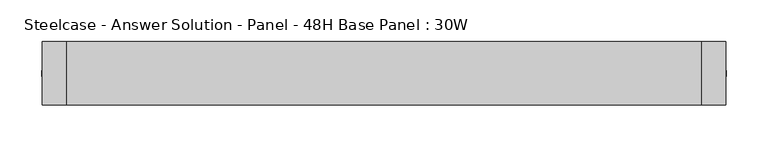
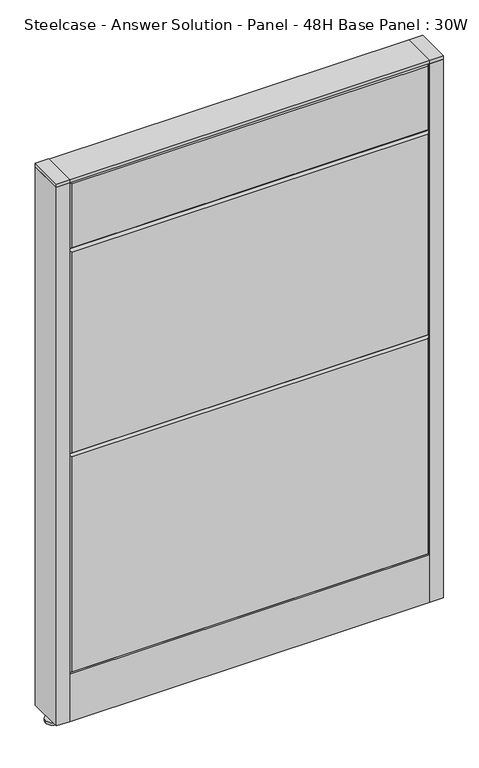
"""IFC4 building model written with IfcOpenShell, lengths in millimetres: furniture geometry, Steelcase - Answer Solution - Panel - 48H Base Panel : 30W."""

from ifc_helpers import new_model, si_unit, point, frame, frame_2d, origin, place, context, project, spatial, polyline, circle_curve, trimmed, segment, composite_curve, outline, extrude, faceted_brep, source, transform, mapped, element, save


def steelcase_answer_solution_panel_48h_base_panel_30w_9dcc85d9(model_context):
    return source(origin(), model_context, "Body", "SolidModel", [
        extrude(outline(composite_curve([segment(trimmed(circle_curve(frame_2d((395.224, 0.0320214)), 5.08), [point((400.304, 0.0320214))], [point((390.144, 0.0320214))], False, "CARTESIAN"), True, "CONTINUOUS"), segment(trimmed(circle_curve(frame_2d((395.224, 0.0320214)), 5.08), [point((390.144, 0.0320214))], [point((400.304, 0.0320214))], False, "CARTESIAN"), True, "CONTINUOUS")], self_intersect=False)), frame((0.0, 0.0, 5.0799671), z_axis=(0.0, 0.0, 1.0), x_axis=(1.0, 0.0, 0.0)), (0.0, 0.0, 1.0), 10.414),
        extrude(outline(composite_curve([segment(trimmed(circle_curve(frame_2d((395.224, 0.0320214)), 15.24), [point((410.464, 0.0320214))], [point((379.984, 0.0320214))], False, "CARTESIAN"), True, "CONTINUOUS"), segment(trimmed(circle_curve(frame_2d((395.224, 0.0320214)), 15.24), [point((379.984, 0.0320214))], [point((410.464, 0.0320214))], False, "CARTESIAN"), True, "CONTINUOUS")], self_intersect=False)), frame((0.0, 0.0, -3.29e-05), z_axis=(0.0, 0.0, 1.0), x_axis=(1.0, 0.0, 0.0)), (0.0, 0.0, 1.0), 5.08),
        extrude(outline(polyline([(409.575, 38.1320408), (409.575, -38.0679592), (381.0, -38.0679592), (381.0, 38.1320408), (409.575, 38.1320408)])), frame((0.0, 0.0, 1218.2348), z_axis=(0.0, 0.0, 1.0), x_axis=(1.0, 0.0, 0.0)), (0.0, 0.0, 1.0), 7.3151671),
        extrude(outline(polyline([(409.575, 38.1320408), (409.575, -38.0679592), (381.0, -38.0679592), (381.0, 38.1320408), (409.575, 38.1320408)])), frame((0.0, 0.0, 15.4939671), z_axis=(0.0, 0.0, 1.0), x_axis=(1.0, 0.0, 0.0)), (0.0, 0.0, 1.0), 1202.7408329),
        extrude(outline(composite_curve([segment(trimmed(circle_curve(frame_2d((-395.224, 0.0320214)), 5.08), [point((-400.304, 0.0320214))], [point((-390.144, 0.0320214))], False, "CARTESIAN"), True, "CONTINUOUS"), segment(trimmed(circle_curve(frame_2d((-395.224, 0.0320214)), 5.08), [point((-390.144, 0.0320214))], [point((-400.304, 0.0320214))], False, "CARTESIAN"), True, "CONTINUOUS")], self_intersect=False)), frame((0.0, 0.0, 5.0799671), z_axis=(0.0, 0.0, 1.0), x_axis=(1.0, 0.0, 0.0)), (0.0, 0.0, 1.0), 10.414),
        extrude(outline(composite_curve([segment(trimmed(circle_curve(frame_2d((-395.224, 0.0320214)), 15.24), [point((-410.464, 0.0320214))], [point((-379.984, 0.0320214))], False, "CARTESIAN"), True, "CONTINUOUS"), segment(trimmed(circle_curve(frame_2d((-395.224, 0.0320214)), 15.24), [point((-379.984, 0.0320214))], [point((-410.464, 0.0320214))], False, "CARTESIAN"), True, "CONTINUOUS")], self_intersect=False)), frame((0.0, 0.0, -3.29e-05), z_axis=(0.0, 0.0, 1.0), x_axis=(1.0, 0.0, 0.0)), (0.0, 0.0, 1.0), 5.08),
        extrude(outline(polyline([(-409.575, 38.1320408), (-381.0, 38.1320408), (-381.0, -38.0679592), (-409.575, -38.0679592), (-409.575, 38.1320408)])), frame((0.0, 0.0, 1218.2348), z_axis=(0.0, 0.0, 1.0), x_axis=(1.0, 0.0, 0.0)), (0.0, 0.0, 1.0), 7.3151671),
        extrude(outline(polyline([(-409.575, 38.1320408), (-381.0, 38.1320408), (-381.0, -38.0679592), (-409.575, -38.0679592), (-409.575, 38.1320408)])), frame((0.0, 0.0, 15.4939671), z_axis=(0.0, 0.0, 1.0), x_axis=(1.0, 0.0, 0.0)), (0.0, 0.0, 1.0), 1202.7408329),
        faceted_brep([(-376.174, 38.1635011, 1214.374), (376.174, 38.1635011, 1214.374), (376.174, 38.1635011, 1071.626), (-376.174, 38.1635011, 1071.626), (-381.0, 33.3375011, 1219.2), (-381.0, 33.3375011, 1066.8), (381.0, 33.3375011, 1066.8), (381.0, 33.3375011, 1219.2)], [[[0, 1, 2, 3]], [[4, 5, 6, 7]], [[4, 7, 1, 0]], [[7, 6, 2, 1]], [[6, 5, 3, 2]], [[5, 4, 0, 3]]]),
        faceted_brep([(-376.174, 38.1635011, 1061.974), (376.174, 38.1635011, 1061.974), (376.174, 38.1635011, 614.426), (-376.174, 38.1635011, 614.426), (-381.0, 33.3375011, 1066.8), (-381.0, 33.3375011, 609.6), (381.0, 33.3375011, 609.6), (381.0, 33.3375011, 1066.8)], [[[0, 1, 2, 3]], [[4, 5, 6, 7]], [[4, 7, 1, 0]], [[7, 6, 2, 1]], [[6, 5, 3, 2]], [[5, 4, 0, 3]]]),
        faceted_brep([(-376.174, 38.1635011, 604.774), (376.174, 38.1635011, 604.774), (376.174, 38.1635011, 125.476), (-376.174, 38.1635011, 125.476), (-381.0, 33.3375011, 609.6), (-381.0, 33.3375011, 120.65), (381.0, 33.3375011, 120.65), (381.0, 33.3375011, 609.6)], [[[0, 1, 2, 3]], [[4, 5, 6, 7]], [[4, 7, 1, 0]], [[7, 6, 2, 1]], [[6, 5, 3, 2]], [[5, 4, 0, 3]]]),
        faceted_brep([(376.174, -38.1635011, 1214.374), (-376.174, -38.1635011, 1214.374), (-376.174, -38.1635011, 1071.626), (376.174, -38.1635011, 1071.626), (381.0, -33.3375011, 1219.2), (381.0, -33.3375011, 1066.8), (-381.0, -33.3375011, 1066.8), (-381.0, -33.3375011, 1219.2)], [[[0, 1, 2, 3]], [[4, 5, 6, 7]], [[4, 7, 1, 0]], [[7, 6, 2, 1]], [[6, 5, 3, 2]], [[5, 4, 0, 3]]]),
        faceted_brep([(376.174, -38.1635011, 1061.974), (-376.174, -38.1635011, 1061.974), (-376.174, -38.1635011, 614.426), (376.174, -38.1635011, 614.426), (381.0, -33.3375011, 1066.8), (381.0, -33.3375011, 609.6), (-381.0, -33.3375011, 609.6), (-381.0, -33.3375011, 1066.8)], [[[0, 1, 2, 3]], [[4, 5, 6, 7]], [[4, 7, 1, 0]], [[7, 6, 2, 1]], [[6, 5, 3, 2]], [[5, 4, 0, 3]]]),
        faceted_brep([(376.174, -38.1635011, 604.774), (-376.174, -38.1635011, 604.774), (-376.174, -38.1635011, 125.476), (376.174, -38.1635011, 125.476), (381.0, -33.3375011, 609.6), (381.0, -33.3375011, 120.65), (-381.0, -33.3375011, 120.65), (-381.0, -33.3375011, 609.6)], [[[0, 1, 2, 3]], [[4, 5, 6, 7]], [[4, 7, 1, 0]], [[7, 6, 2, 1]], [[6, 5, 3, 2]], [[5, 4, 0, 3]]]),
        extrude(outline(polyline([(381.0, 38.1000194), (381.0, -38.1000194), (-381.0, -38.1000194), (-381.0, 38.1000194), (381.0, 38.1000194)])), frame((0.0, 0.0, 1219.2), z_axis=(0.0, 0.0, 1.0), x_axis=(1.0, 0.0, 0.0)), (0.0, 0.0, 1.0), 6.35),
        extrude(outline(polyline([(25.4000011, 119.8575157), (25.4000011, 120.65), (38.1000194, 120.65), (38.1000194, 15.494), (37.3075215, 15.494), (37.3075215, 119.8575157), (25.4000011, 119.8575157)])), frame((-381.0, 0.0, 0.0), z_axis=(1.0, 0.0, 0.0), x_axis=(0.0, 1.0, 0.0)), (0.0, 0.0, 1.0), 762.0),
        extrude(outline(polyline([(-25.4000011, 119.8575157), (-37.3075215, 119.8575157), (-37.3075215, 15.494), (-38.1000194, 15.494), (-38.1000194, 120.65), (-25.4000011, 120.65), (-25.4000011, 119.8575157)])), frame((-381.0, 0.0, 0.0), z_axis=(1.0, 0.0, 0.0), x_axis=(0.0, 1.0, 0.0)), (0.0, 0.0, 1.0), 762.0),
    ])


if __name__ == "__main__":
    model = new_model("IFC4")
    model_context = context("Model", 3, world=origin())
    ifc_project = project(units=[si_unit("LENGTHUNIT", "METRE", prefix="MILLI")], contexts=[model_context])
    site = spatial("IfcSite", under=ifc_project)
    building = spatial("IfcBuilding", under=site)
    placement = place(None, origin())
    steelcase_answer_solution_panel_48h_base_panel_30w_shape = steelcase_answer_solution_panel_48h_base_panel_30w_9dcc85d9(model_context)
    element("IfcFurniture", 1, ObjectType="Steelcase - Answer Solution - Panel - 48H Base Panel : 30W", at=placement, inside=building, context=model_context, shape_type="MappedRepresentation", body=[
        mapped(steelcase_answer_solution_panel_48h_base_panel_30w_shape, transform((0.0, 0.0, 0.0), x_axis=(1.0, 0.0, 0.0), y_axis=(0.0, 1.0, 0.0), z_axis=(0.0, 0.0, 1.0))),
    ])
    save(model, "model.ifc")
